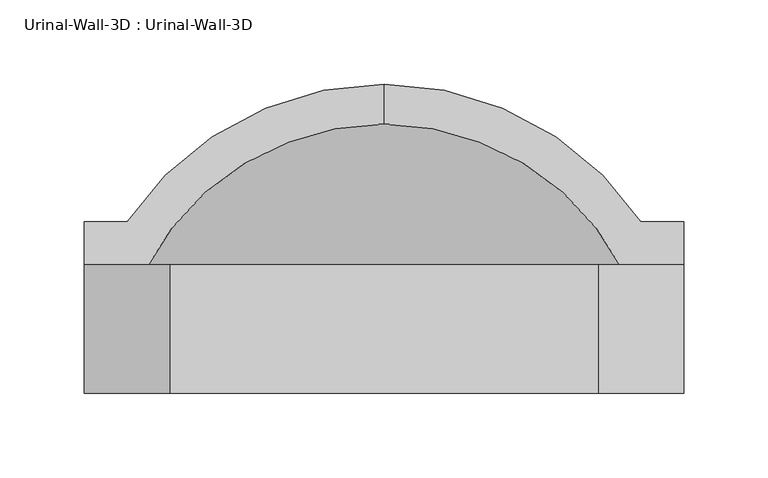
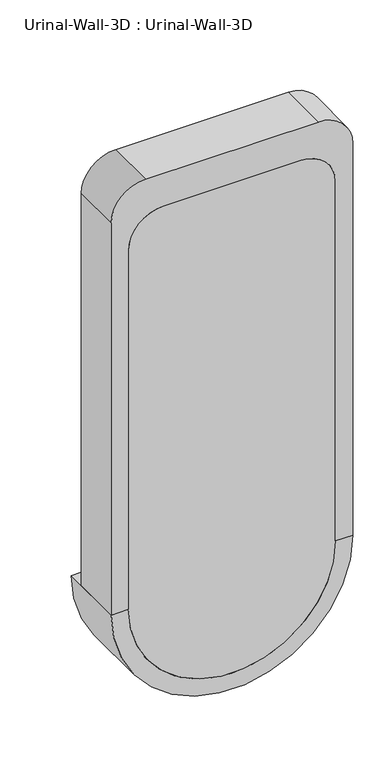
"""IFC4 building model written with IfcOpenShell, lengths in millimetres: flow terminal geometry, Urinal-Wall-3D : Urinal-Wall-3D."""

from ifc_helpers import new_model, si_unit, point, frame, frame_2d, origin, place, context, project, spatial, polyline, circle_curve, ellipse_curve, trimmed, segment, composite_curve, outline, extrude, source, transform, mapped, element, save
from ifc_brep_helpers import plane_surface, cylinder_surface, revolved_surface, advanced_brep


def urinal_wall_3d_urinal_wall_3d_aeedfa41(model_context):
    return source(origin(), model_context, "Body", "SolidModel", [
        extrude(outline(composite_curve([segment(polyline([(609.6, 43.3254001), (609.6, 68.7254001), (1219.2, 68.7254001)]), True, "CONTINUOUS"), segment(trimmed(circle_curve(frame_2d((1219.2, 17.9254001)), 50.8), [point((1219.2, 68.7254001))], [point((1270.0, 17.9254001))], False, "CARTESIAN"), True, "CONTINUOUS"), segment(polyline([(1270.0, 17.9254001), (1270.0, -236.0745999)]), True, "CONTINUOUS"), segment(trimmed(circle_curve(frame_2d((1219.2, -236.0745999)), 50.8), [point((1270.0, -236.0745999))], [point((1219.2, -286.8745999))], False, "CARTESIAN"), True, "CONTINUOUS"), segment(polyline([(1219.2, -286.8745999), (609.6, -286.8745999), (609.6, -261.4745999), (1168.4, -261.4745999)]), True, "CONTINUOUS"), segment(trimmed(circle_curve(frame_2d((1168.4, -210.6745999)), 50.8), [point((1168.4, -261.4745999))], [point((1219.2, -210.6745999))], True, "CARTESIAN"), True, "CONTINUOUS"), segment(polyline([(1219.2, -210.6745999), (1219.2, -7.4745999)]), True, "CONTINUOUS"), segment(trimmed(circle_curve(frame_2d((1168.4, -7.4745999)), 50.8), [point((1219.2, -7.4745999))], [point((1168.4, 43.3254001))], True, "CARTESIAN"), True, "CONTINUOUS"), segment(polyline([(1168.4, 43.3254001), (609.6, 43.3254001)]), True, "CONTINUOUS")], self_intersect=False)), frame((0.0, 109.5375, 0.0), z_axis=(0.0, 1.0, 0.0), x_axis=(0.0, 0.0, 1.0)), (0.0, 0.0, 1.0), 76.2),
        extrude(outline(composite_curve([segment(trimmed(circle_curve(frame_2d((1168.4, -7.4745999)), 50.8), [point((1168.4, 43.3254001))], [point((1219.2, -7.4745999))], False, "CARTESIAN"), True, "CONTINUOUS"), segment(polyline([(1219.2, -7.4745999), (1219.2, -210.6745999)]), True, "CONTINUOUS"), segment(trimmed(circle_curve(frame_2d((1168.4, -210.6745999)), 50.8), [point((1219.2, -210.6745999))], [point((1168.4, -261.4745999))], False, "CARTESIAN"), True, "CONTINUOUS"), segment(polyline([(1168.4, -261.4745999), (609.6, -261.4745999)]), True, "CONTINUOUS"), segment(trimmed(circle_curve(frame_2d((609.6, -109.0745999)), 152.4), [point((609.6, -261.4745999))], [point((609.6, 43.3254001))], False, "CARTESIAN"), True, "CONTINUOUS"), segment(polyline([(609.6, 43.3254001), (1168.4, 43.3254001)]), True, "CONTINUOUS")], self_intersect=False)), frame((0.0, 109.5375, 0.0), z_axis=(0.0, 1.0, 0.0), x_axis=(0.0, 0.0, 1.0)), (0.0, 0.0, 1.0), 12.7),
        advanced_brep(
        [(-109.0745999, 292.6995048, 609.6), (-109.0745999, 268.9822043, 609.6), (43.3254001, 156.4081063, 609.6), (43.3254001, 109.5375, 609.6), (68.7254001, 109.5375, 609.6), (68.7254001, 211.1375, 609.6), (43.3254001, 211.1375, 609.6), (-261.4745999, 211.1375, 609.6), (-286.8745999, 211.1375, 609.6), (-286.8745999, 109.5375, 609.6), (-261.4745999, 109.5375, 609.6), (-261.4745999, 156.4081063, 609.6)],
        [
            (0, 1),
            (1, 2, circle_curve(frame((-109.0745999, 109.5375, 609.6), z_axis=(0.0, 0.0, -1.0), x_axis=(1.0, 0.0, 0.0)), 159.4447043)),
            (2, 3),
            (3, 4),
            (4, 5),
            (5, 6),
            (6, 0, circle_curve(frame((-109.0745999, 109.5375, 609.6), z_axis=(0.0, 0.0, 1.0), x_axis=(1.0, 0.0, 0.0)), 183.1620048)),
            (0, 7, circle_curve(frame((-109.0745999, 109.5375, 609.6), z_axis=(0.0, 0.0, 1.0), x_axis=(-1.0, 0.0, 0.0)), 183.1620048)),
            (7, 8),
            (8, 9),
            (9, 10),
            (10, 11),
            (11, 1, circle_curve(frame((-109.0745999, 109.5375, 609.6), z_axis=(0.0, 0.0, -1.0), x_axis=(-1.0, 0.0, 0.0)), 159.4447043)),
            (11, 2, circle_curve(frame((-109.0745999, 156.4081063, 609.6), z_axis=(0.0, -1.0, 0.0), x_axis=(1.0, 0.0, 0.0)), 152.4)),
            (10, 3, circle_curve(frame((-109.0745999, 109.5375, 609.6), z_axis=(0.0, -1.0, 0.0), x_axis=(1.0, 0.0, 0.0)), 152.4)),
            (9, 4, circle_curve(frame((-109.0745999, 109.5375, 609.6), z_axis=(0.0, -1.0, 0.0), x_axis=(1.0, 0.0, 0.0)), 177.8)),
            (8, 5, circle_curve(frame((-109.0745999, 211.1375, 609.6), z_axis=(0.0, -1.0, 0.0), x_axis=(1.0, 0.0, 0.0)), 177.8)),
            (7, 6, circle_curve(frame((-109.0745999, 211.1375, 609.6), z_axis=(0.0, -1.0, 0.0), x_axis=(1.0, 0.0, 0.0)), 152.4)),
        ],
        [
            plane_surface(frame((-109.0745999, 398.7479173, 609.6), z_axis=(0.0, 0.0, 1.0), x_axis=(1.0, 0.0, 0.0))),
            plane_surface(frame((-109.0745999, 398.7479173, 609.6), z_axis=(0.0, 0.0, 1.0), x_axis=(-1.0, 0.0, 0.0))),
            revolved_surface(trimmed(ellipse_curve(frame((-109.0745999, 109.5375, 609.6), z_axis=(0.0, 0.0, -1.0), x_axis=(1.0, 0.0, 0.0)), 159.4447043, 159.4447043), [point((-109.0745999, 268.9822043, 609.6))], [point((43.3254001, 156.4081063, 609.6))], True, "CARTESIAN"), (-109.0745999, 398.7479173, 609.6), (0.0, 1.0, 0.0)),
            revolved_surface(polyline([(43.32540010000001, 156.4081063, 609.6), (43.32540010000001, 109.53749999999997, 609.6)]), (-109.0745999, 398.7479173, 609.6), (0.0, 1.0, 0.0)),
            plane_surface(frame((-109.0745999, 109.5375, 609.6), z_axis=(0.0, -1.0, 0.0), x_axis=(1.0, 0.0, 0.0))),
            cylinder_surface(frame((-109.0745999, 398.7479173, 609.6), z_axis=(0.0, 1.0, 0.0), x_axis=(1.0, 0.0, 0.0)), 177.8),
            plane_surface(frame((-109.0745999, 211.1375, 609.6), z_axis=(0.0, 1.0, 0.0), x_axis=(1.0, 0.0, 0.0))),
            revolved_surface(trimmed(ellipse_curve(frame((-109.0745999, 109.5375, 609.6), z_axis=(0.0, 0.0, 1.0), x_axis=(1.0, 0.0, 0.0)), 183.1620048, 183.1620048), [point((43.3254001, 211.1375, 609.6))], [point((-109.0745999, 292.6995048, 609.6))], True, "CARTESIAN"), (-109.0745999, 398.7479173, 609.6), (0.0, 1.0, 0.0)),
        ],
        [
            (0, [[1, 2, 3, 4, 5, 6, 7]]),
            (1, [[8, 9, 10, 11, 12, 13, -1]]),
            (2, [[14, -2, -13]]),
            (3, [[15, -3, -14, -12]]),
            (4, [[16, -4, -15, -11]]),
            (5, [[17, -5, -16, -10]]),
            (6, [[18, -6, -17, -9]]),
            (7, [[-7, -18, -8]]),
        ],
    ),
    ])


if __name__ == "__main__":
    model = new_model("IFC4")
    model_context = context("Model", 3, world=origin())
    ifc_project = project(units=[si_unit("LENGTHUNIT", "METRE", prefix="MILLI")], contexts=[model_context])
    site = spatial("IfcSite", under=ifc_project)
    building = spatial("IfcBuilding", under=site)
    placement = place(None, origin())
    urinal_wall_3d_urinal_wall_3d_shape = urinal_wall_3d_urinal_wall_3d_aeedfa41(model_context)
    element("IfcFlowTerminal", 1, ObjectType="Urinal-Wall-3D : Urinal-Wall-3D", at=placement, inside=building, context=model_context, shape_type="MappedRepresentation", body=[
        mapped(urinal_wall_3d_urinal_wall_3d_shape, transform((0.0, 0.0, 0.0), x_axis=(1.0, 0.0, 0.0), y_axis=(0.0, 1.0, 0.0), z_axis=(0.0, 0.0, 1.0))),
    ])
    save(model, "model.ifc")
